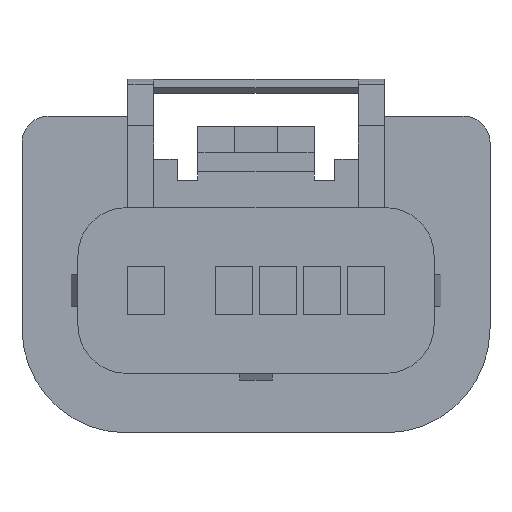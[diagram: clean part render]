
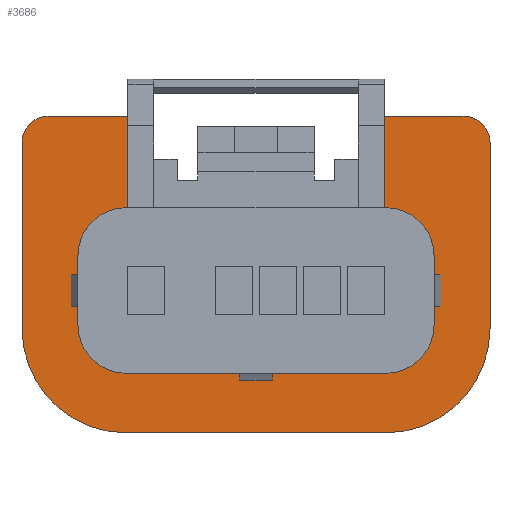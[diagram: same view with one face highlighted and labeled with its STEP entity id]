
A CAD part, left-side view. The second image highlights one B-rep face of the part: STEP entity #3686.
In plain terms, the highlighted planar face has unit normal (-1, 0, 0).
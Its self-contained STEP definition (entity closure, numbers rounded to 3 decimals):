
#658=CARTESIAN_POINT('Axis2P3D Location',(-19.88,0.,0.)) ;
#2456=CARTESIAN_POINT('Vertex',(-19.88,-13.5,16.76)) ;
#2459=CARTESIAN_POINT('Line Origine',(-19.88,-13.5,11.385)) ;
#2463=CARTESIAN_POINT('Vertex',(-19.88,-13.5,6.01)) ;
#2491=CARTESIAN_POINT('Vertex',(-19.88,13.5,16.76)) ;
#2498=CARTESIAN_POINT('Vertex',(-19.88,13.5,6.01)) ;
#2501=CARTESIAN_POINT('Line Origine',(-19.88,13.5,11.385)) ;
#2522=CARTESIAN_POINT('Axis2P3D Location',(-19.88,12.,16.76)) ;
#2526=CARTESIAN_POINT('Vertex',(-19.88,12.,18.26)) ;
#2546=CARTESIAN_POINT('Line Origine',(-19.88,9.7,18.26)) ;
#2550=CARTESIAN_POINT('Vertex',(-19.88,7.4,18.26)) ;
#2570=CARTESIAN_POINT('Line Origine',(-19.88,7.4,15.625)) ;
#2574=CARTESIAN_POINT('Vertex',(-19.88,7.4,12.99)) ;
#2603=CARTESIAN_POINT('Vertex',(-19.88,-7.4,12.99)) ;
#2606=CARTESIAN_POINT('Line Origine',(-19.88,-7.4,15.625)) ;
#2610=CARTESIAN_POINT('Vertex',(-19.88,-7.4,18.26)) ;
#2630=CARTESIAN_POINT('Line Origine',(-19.88,-9.7,18.26)) ;
#2634=CARTESIAN_POINT('Vertex',(-19.88,-12.,18.26)) ;
#2654=CARTESIAN_POINT('Axis2P3D Location',(-19.88,-12.,16.76)) ;
#2675=CARTESIAN_POINT('Vertex',(-19.88,-7.49,0.)) ;
#2678=CARTESIAN_POINT('Axis2P3D Location',(-19.88,-7.49,6.01)) ;
#2699=CARTESIAN_POINT('Vertex',(-19.88,7.49,0.)) ;
#2702=CARTESIAN_POINT('Line Origine',(-19.88,0.,0.)) ;
#2719=CARTESIAN_POINT('Axis2P3D Location',(-19.88,7.49,6.01)) ;
#2932=CARTESIAN_POINT('Vertex',(-19.88,-10.27,6.21)) ;
#2935=CARTESIAN_POINT('Line Origine',(-19.88,-10.27,8.21)) ;
#2939=CARTESIAN_POINT('Vertex',(-19.88,-10.27,10.21)) ;
#2997=CARTESIAN_POINT('Vertex',(-19.88,-7.49,3.43)) ;
#3000=CARTESIAN_POINT('Axis2P3D Location',(-19.88,-7.49,6.21)) ;
#3021=CARTESIAN_POINT('Vertex',(-19.88,7.49,3.43)) ;
#3024=CARTESIAN_POINT('Line Origine',(-19.88,0.,3.43)) ;
#3079=CARTESIAN_POINT('Vertex',(-19.88,10.27,6.21)) ;
#3082=CARTESIAN_POINT('Axis2P3D Location',(-19.88,7.49,6.21)) ;
#3103=CARTESIAN_POINT('Vertex',(-19.88,10.27,10.21)) ;
#3106=CARTESIAN_POINT('Line Origine',(-19.88,10.27,8.21)) ;
#3161=CARTESIAN_POINT('Vertex',(-19.88,7.49,12.99)) ;
#3164=CARTESIAN_POINT('Axis2P3D Location',(-19.88,7.49,10.21)) ;
#3176=CARTESIAN_POINT('Line Origine',(-19.88,7.445,12.99)) ;
#3192=CARTESIAN_POINT('Vertex',(-19.88,-7.49,12.99)) ;
#3195=CARTESIAN_POINT('Line Origine',(-19.88,-7.445,12.99)) ;
#3212=CARTESIAN_POINT('Axis2P3D Location',(-19.88,-7.49,10.21)) ;
#659=DIRECTION('Axis2P3D Direction',(1.,0.,0.)) ;
#660=DIRECTION('Axis2P3D XDirection',(0.,1.,0.)) ;
#2460=DIRECTION('Vector Direction',(0.,0.,-1.)) ;
#2502=DIRECTION('Vector Direction',(0.,0.,1.)) ;
#2523=DIRECTION('Axis2P3D Direction',(-1.,0.,0.)) ;
#2547=DIRECTION('Vector Direction',(0.,1.,0.)) ;
#2571=DIRECTION('Vector Direction',(0.,0.,-1.)) ;
#2607=DIRECTION('Vector Direction',(0.,0.,-1.)) ;
#2631=DIRECTION('Vector Direction',(0.,1.,0.)) ;
#2655=DIRECTION('Axis2P3D Direction',(-1.,0.,0.)) ;
#2679=DIRECTION('Axis2P3D Direction',(1.,0.,0.)) ;
#2703=DIRECTION('Vector Direction',(0.,-1.,0.)) ;
#2720=DIRECTION('Axis2P3D Direction',(1.,0.,0.)) ;
#2936=DIRECTION('Vector Direction',(0.,0.,1.)) ;
#3001=DIRECTION('Axis2P3D Direction',(1.,0.,0.)) ;
#3025=DIRECTION('Vector Direction',(0.,-1.,0.)) ;
#3083=DIRECTION('Axis2P3D Direction',(1.,0.,0.)) ;
#3107=DIRECTION('Vector Direction',(0.,0.,-1.)) ;
#3165=DIRECTION('Axis2P3D Direction',(1.,0.,0.)) ;
#3177=DIRECTION('Vector Direction',(0.,1.,0.)) ;
#3196=DIRECTION('Vector Direction',(0.,1.,0.)) ;
#3213=DIRECTION('Axis2P3D Direction',(1.,0.,0.)) ;
#661=AXIS2_PLACEMENT_3D('Plane Axis2P3D',#658,#659,#660) ;
#2524=AXIS2_PLACEMENT_3D('Circle Axis2P3D',#2522,#2523,$) ;
#2656=AXIS2_PLACEMENT_3D('Circle Axis2P3D',#2654,#2655,$) ;
#2680=AXIS2_PLACEMENT_3D('Circle Axis2P3D',#2678,#2679,$) ;
#2721=AXIS2_PLACEMENT_3D('Circle Axis2P3D',#2719,#2720,$) ;
#3002=AXIS2_PLACEMENT_3D('Circle Axis2P3D',#3000,#3001,$) ;
#3084=AXIS2_PLACEMENT_3D('Circle Axis2P3D',#3082,#3083,$) ;
#3166=AXIS2_PLACEMENT_3D('Circle Axis2P3D',#3164,#3165,$) ;
#3214=AXIS2_PLACEMENT_3D('Circle Axis2P3D',#3212,#3213,$) ;
#3665=ORIENTED_EDGE('',*,*,#2658,.F.) ;
#3666=ORIENTED_EDGE('',*,*,#2636,.T.) ;
#3667=ORIENTED_EDGE('',*,*,#2612,.T.) ;
#3668=ORIENTED_EDGE('',*,*,#3199,.F.) ;
#3669=ORIENTED_EDGE('',*,*,#3216,.T.) ;
#3670=ORIENTED_EDGE('',*,*,#2941,.F.) ;
#3671=ORIENTED_EDGE('',*,*,#3004,.T.) ;
#3672=ORIENTED_EDGE('',*,*,#3028,.F.) ;
#3673=ORIENTED_EDGE('',*,*,#3086,.T.) ;
#3674=ORIENTED_EDGE('',*,*,#3110,.F.) ;
#3675=ORIENTED_EDGE('',*,*,#3168,.T.) ;
#3676=ORIENTED_EDGE('',*,*,#3180,.F.) ;
#3677=ORIENTED_EDGE('',*,*,#2576,.F.) ;
#3678=ORIENTED_EDGE('',*,*,#2552,.T.) ;
#3679=ORIENTED_EDGE('',*,*,#2528,.F.) ;
#3680=ORIENTED_EDGE('',*,*,#2505,.F.) ;
#3681=ORIENTED_EDGE('',*,*,#2723,.F.) ;
#3682=ORIENTED_EDGE('',*,*,#2706,.T.) ;
#3683=ORIENTED_EDGE('',*,*,#2682,.F.) ;
#3684=ORIENTED_EDGE('',*,*,#2465,.F.) ;
#2461=VECTOR('Line Direction',#2460,1.) ;
#2503=VECTOR('Line Direction',#2502,1.) ;
#2548=VECTOR('Line Direction',#2547,1.) ;
#2572=VECTOR('Line Direction',#2571,1.) ;
#2608=VECTOR('Line Direction',#2607,1.) ;
#2632=VECTOR('Line Direction',#2631,1.) ;
#2704=VECTOR('Line Direction',#2703,1.) ;
#2937=VECTOR('Line Direction',#2936,1.) ;
#3026=VECTOR('Line Direction',#3025,1.) ;
#3108=VECTOR('Line Direction',#3107,1.) ;
#3178=VECTOR('Line Direction',#3177,1.) ;
#3197=VECTOR('Line Direction',#3196,1.) ;
#3686=ADVANCED_FACE('BODY',(#3685),#662,.F.) ;
#2525=CIRCLE('generated circle',#2524,1.5) ;
#2657=CIRCLE('generated circle',#2656,1.5) ;
#2681=CIRCLE('generated circle',#2680,6.01) ;
#2722=CIRCLE('generated circle',#2721,6.01) ;
#3003=CIRCLE('generated circle',#3002,2.78) ;
#3085=CIRCLE('generated circle',#3084,2.78) ;
#3167=CIRCLE('generated circle',#3166,2.78) ;
#3215=CIRCLE('generated circle',#3214,2.78) ;
#2465=EDGE_CURVE('',#2457,#2464,#2462,.T.) ;
#2505=EDGE_CURVE('',#2499,#2492,#2504,.T.) ;
#2528=EDGE_CURVE('',#2492,#2527,#2525,.F.) ;
#2552=EDGE_CURVE('',#2551,#2527,#2549,.T.) ;
#2576=EDGE_CURVE('',#2551,#2575,#2573,.T.) ;
#2612=EDGE_CURVE('',#2611,#2604,#2609,.T.) ;
#2636=EDGE_CURVE('',#2635,#2611,#2633,.T.) ;
#2658=EDGE_CURVE('',#2635,#2457,#2657,.F.) ;
#2682=EDGE_CURVE('',#2464,#2676,#2681,.T.) ;
#2706=EDGE_CURVE('',#2700,#2676,#2705,.T.) ;
#2723=EDGE_CURVE('',#2700,#2499,#2722,.T.) ;
#2941=EDGE_CURVE('',#2933,#2940,#2938,.T.) ;
#3004=EDGE_CURVE('',#2933,#2998,#3003,.T.) ;
#3028=EDGE_CURVE('',#3022,#2998,#3027,.T.) ;
#3086=EDGE_CURVE('',#3022,#3080,#3085,.T.) ;
#3110=EDGE_CURVE('',#3104,#3080,#3109,.T.) ;
#3168=EDGE_CURVE('',#3104,#3162,#3167,.T.) ;
#3180=EDGE_CURVE('',#2575,#3162,#3179,.T.) ;
#3199=EDGE_CURVE('',#3193,#2604,#3198,.T.) ;
#3216=EDGE_CURVE('',#3193,#2940,#3215,.T.) ;
#3664=EDGE_LOOP('',(#3665,#3666,#3667,#3668,#3669,#3670,#3671,#3672,#3673,#3674,#3675,#3676,#3677,#3678,#3679,#3680,#3681,#3682,#3683,#3684)) ;
#3685=FACE_OUTER_BOUND('',#3664,.T.) ;
#2462=LINE('Line',#2459,#2461) ;
#2504=LINE('Line',#2501,#2503) ;
#2549=LINE('Line',#2546,#2548) ;
#2573=LINE('Line',#2570,#2572) ;
#2609=LINE('Line',#2606,#2608) ;
#2633=LINE('Line',#2630,#2632) ;
#2705=LINE('Line',#2702,#2704) ;
#2938=LINE('Line',#2935,#2937) ;
#3027=LINE('Line',#3024,#3026) ;
#3109=LINE('Line',#3106,#3108) ;
#3179=LINE('Line',#3176,#3178) ;
#3198=LINE('Line',#3195,#3197) ;
#662=PLANE('',#661) ;
#2457=VERTEX_POINT('',#2456) ;
#2464=VERTEX_POINT('',#2463) ;
#2492=VERTEX_POINT('',#2491) ;
#2499=VERTEX_POINT('',#2498) ;
#2527=VERTEX_POINT('',#2526) ;
#2551=VERTEX_POINT('',#2550) ;
#2575=VERTEX_POINT('',#2574) ;
#2604=VERTEX_POINT('',#2603) ;
#2611=VERTEX_POINT('',#2610) ;
#2635=VERTEX_POINT('',#2634) ;
#2676=VERTEX_POINT('',#2675) ;
#2700=VERTEX_POINT('',#2699) ;
#2933=VERTEX_POINT('',#2932) ;
#2940=VERTEX_POINT('',#2939) ;
#2998=VERTEX_POINT('',#2997) ;
#3022=VERTEX_POINT('',#3021) ;
#3080=VERTEX_POINT('',#3079) ;
#3104=VERTEX_POINT('',#3103) ;
#3162=VERTEX_POINT('',#3161) ;
#3193=VERTEX_POINT('',#3192) ;
